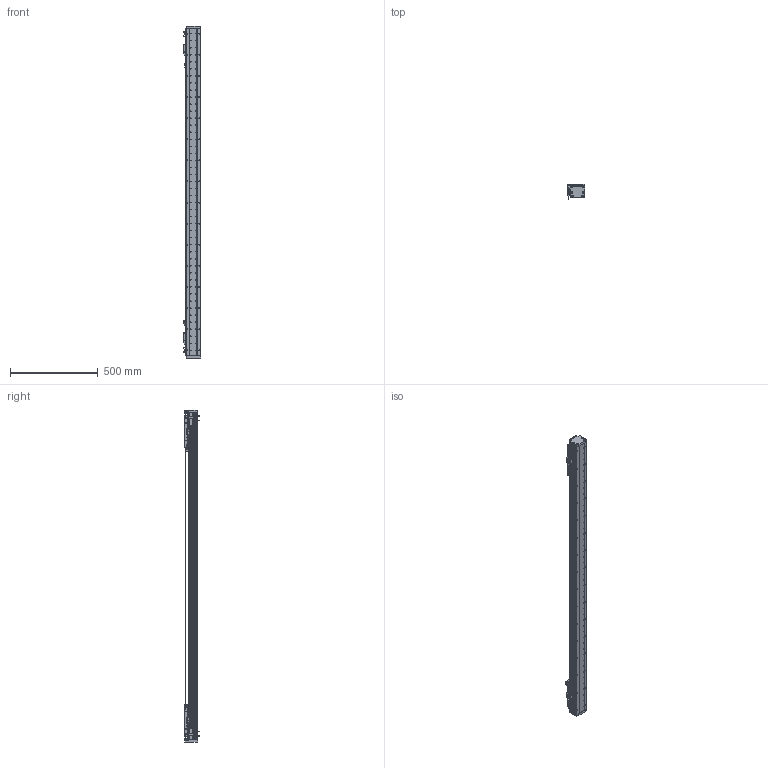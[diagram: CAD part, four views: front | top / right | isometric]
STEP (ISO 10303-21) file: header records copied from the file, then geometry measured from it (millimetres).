
FILE_DESCRIPTION (( 'STEP AP203' ), '1' );
FILE_NAME ('DA-A82-2-B2-T1440-C010-0.2 眻盄萇儂.STEP', '2025-08-13T02:36:07', ( '' ), ( '' ), 'SwSTEP 2.0', 'SolidWorks 2019', '' );
FILE_SCHEMA (( 'CONFIG_CONTROL_DESIGN' ));
Length unit declared in the file: millimetre
Products named in the file (29): 葩璃 PM-L25^DA-A82-B2-T-C010-0.2-N 眻盄萇儂; 复件 DKW-GJ-XJ-00 防撞橡胶^DA-A82-B2-T-C010-0.2-N 直线电机; AU82-M-00 珨极趙賑雄怢啣; 葩璃 BKM01-W040-TRL^DA-A82-B2-T-C010-0.2-N 眻盄萇儂; AU82-M 幗紩賑怢; 复件 六角薄螺母 M3^DA-A82-B2-T-C010-0.2-N 直线电机; 复件 XD-U-02  磁栅尺^DA-A82-B2-T-C010-0.2-N 直线电机; DA-A60-GYP-DMT-00 光电感应片^DA-A82-B2-T-C010-0.2-N 直线电机(默认); IU-AU82-L-00 菁釱(L1860); 复件 DA82-GDZ-ZJ-00 中间光电固定座^DA-A82-B2-T-C010-0.2-N 直线电机; DA-A82-2-B2-T1440-C010-0.2 眻盄萇儂; 复件 复件 17517-0000-002-00 端板^DA-A82-B2-T-C010-0.2-N 直线电机; 葩璃 DA82-B2-DP-00 結え^AU82-M 幗紩賑怢; 复件 DA95-GT-T-00 底座钢轨^IU-AU82-L 底座导轨; 复件 BKM02-W040-C1-TP-DA-3.0 直线电机动子^DA-A82-B2-T-C010-0.2-N 直线电机; 复件 复件 复件 DA82 钢带盖板^DA-A82-B2-T-C010-0.2-N 直线电机(默认); 复件 DA95-B2-GT-00 滑块钢轨^AU82-M-00 一体化滑动台板; 复件 复件 DA82-XJ-00 缓冲橡胶^DA-A82-B2-T-C010-0.2-N 直线电机; 复件 DA82-GYP-ZJ-00 中间光电感应片^DA-A82-B2-T-C010-0.2-N 直线电机; AU82-HT-M-00 賑雄怢啣; AU82-M 幗紩賑怢-1; 复件 DA60-DMT-DTJ-00 读数头支架^DA-A82-B2-T-C010-0.2-N 直线电机; 复件 纯铜油杯 6x6mm^AU82-M 滚珠滑台; IU-AU82-L 菁釱絳寢; AU82-M-00 珨极趙賑雄怢啣-1; 葩璃 DMT-010 1米m 0.2M^DA-A82-B2-T-C010-0.2-N 眻盄萇儂; 复件 复件 17517-0000-004-00  钢带压块^DA-A82-B2-T-C010-0.2-N 直线电机(默认); 葩璃 PM-T45^DA-A82-B2-T-C010-0.2-N 眻盄萇儂; 复件 复件 17517-0000-003-00 钢带拉块^DA-A82-B2-T-C010-0.2-N 直线电机
Assembly tree (61 placements, depth 4):
  DA-A82-2-B2-T1440-C010-0.2 眻盄萇儂
    IU-AU82-L 菁釱絳寢
      IU-AU82-L-00 菁釱(L1860)
      复件 DA95-GT-T-00 底座钢轨^IU-AU82-L 底座导轨  x2
    AU82-M 幗紩賑怢
      AU82-M-00 珨极趙賑雄怢啣
        AU82-HT-M-00 賑雄怢啣
        复件 DA95-B2-GT-00 滑块钢轨^AU82-M-00 一体化滑动台板  x4
      葩璃 DA82-B2-DP-00 結え^AU82-M 幗紩賑怢  x2
      复件 纯铜油杯 6x6mm^AU82-M 滚珠滑台  x2
    AU82-M 幗紩賑怢-1
      AU82-M-00 珨极趙賑雄怢啣-1
        AU82-HT-M-00 賑雄怢啣
        复件 DA95-B2-GT-00 滑块钢轨^AU82-M-00 一体化滑动台板  x4
      葩璃 DA82-B2-DP-00 結え^AU82-M 幗紩賑怢  x2
      复件 纯铜油杯 6x6mm^AU82-M 滚珠滑台  x2
    复件 BKM02-W040-C1-TP-DA-3.0 直线电机动子^DA-A82-B2-T-C010-0.2-N 直线电机  x2
    复件 DA60-DMT-DTJ-00 读数头支架^DA-A82-B2-T-C010-0.2-N 直线电机  x2
    葩璃 DMT-010 1米m 0.2M^DA-A82-B2-T-C010-0.2-N 眻盄萇儂  x2
    DA-A60-GYP-DMT-00 光电感应片^DA-A82-B2-T-C010-0.2-N 直线电机(默认)  x2
    复件 DA82-GDZ-ZJ-00 中间光电固定座^DA-A82-B2-T-C010-0.2-N 直线电机
    葩璃 PM-L25^DA-A82-B2-T-C010-0.2-N 眻盄萇儂
    复件 DA82-GYP-ZJ-00 中间光电感应片^DA-A82-B2-T-C010-0.2-N 直线电机
    复件 DKW-GJ-XJ-00 防撞橡胶^DA-A82-B2-T-C010-0.2-N 直线电机
    复件 复件 17517-0000-003-00 钢带拉块^DA-A82-B2-T-C010-0.2-N 直线电机  x2
    复件 复件 DA82-XJ-00 缓冲橡胶^DA-A82-B2-T-C010-0.2-N 直线电机  x2
    复件 复件 17517-0000-004-00  钢带压块^DA-A82-B2-T-C010-0.2-N 直线电机(默认)  x2
    复件 复件 17517-0000-002-00 端板^DA-A82-B2-T-C010-0.2-N 直线电机  x2
    复件 复件 复件 DA82 钢带盖板^DA-A82-B2-T-C010-0.2-N 直线电机(默认)
    葩璃 BKM01-W040-TRL^DA-A82-B2-T-C010-0.2-N 眻盄萇儂
    葩璃 PM-T45^DA-A82-B2-T-C010-0.2-N 眻盄萇儂  x4
    复件 XD-U-02  磁栅尺^DA-A82-B2-T-C010-0.2-N 直线电机
    复件 六角薄螺母 M3^DA-A82-B2-T-C010-0.2-N 直线电机  x8
Bounding box: 98.94 x 87.2 x 1888 mm (x, y, z)
Volume: 5810984.6 mm3; surface area: 1737502.1 mm2
Topology: 70 solids, 118 shells, 3509 faces, 9125 edges, 5686 vertices
Faces by surface type: cylinder 1643, plane 1374, cone 456, bspline 16, torus 16, sphere 4
Entity records: 75463 total; most frequent: CARTESIAN_POINT 17037, DIRECTION 11675, ORIENTED_EDGE 11032, EDGE_CURVE 5516, AXIS2_PLACEMENT_3D 4469, VERTEX_POINT 3590, EDGE_LOOP 2806, LINE 2737
